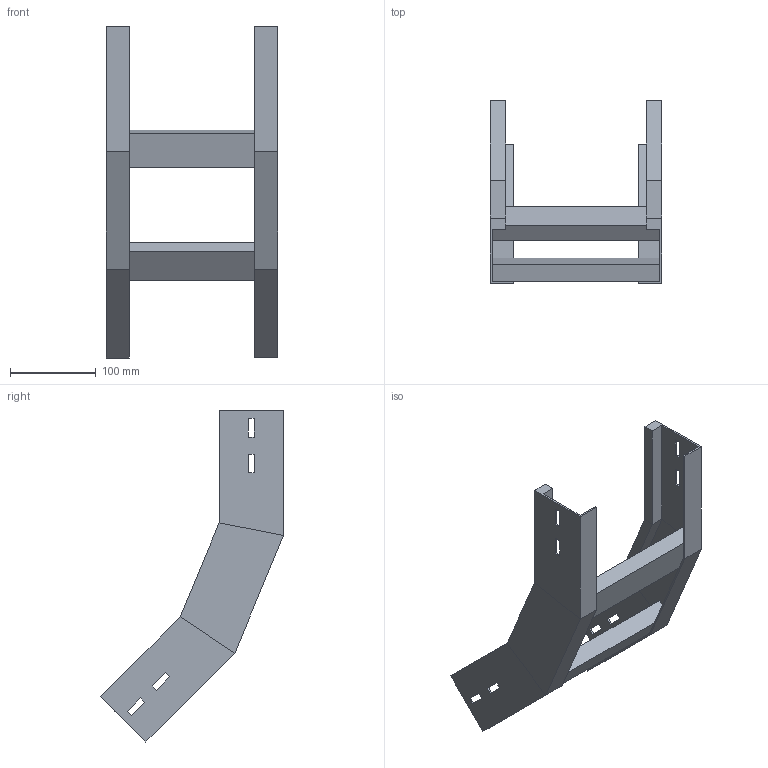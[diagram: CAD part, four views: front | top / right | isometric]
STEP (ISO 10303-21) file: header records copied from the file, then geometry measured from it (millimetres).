
FILE_DESCRIPTION (( 'STEP AP214' ), '1' );
FILE_NAME ('A2X31B3C200XX.step', '2025-03-20T10:08:51', ( '' ), ( '' ), 'SwSTEP 2.0', 'SolidWorks 2023', '' );
FILE_SCHEMA (( 'AUTOMOTIVE_DESIGN' ));
Length unit declared in the file: millimetre
Products named in the file (3): A2X31B3C200XX; LONGH.SALITA_45°_H75_R300; TRAVERSINO_200
Assembly tree (4 placements, depth 2):
  A2X31B3C200XX
    LONGH.SALITA_45°_H75_R300  x2
    TRAVERSINO_200  x2
Bounding box: 200 x 213.56 x 387.55 mm (x, y, z)
Volume: 631315.1 mm3; surface area: 246450.7 mm2
Topology: 4 solids, 4 shells, 96 faces, 232 edges, 144 vertices
Faces by surface type: plane 96
Entity records: 1472 total; most frequent: CARTESIAN_POINT 243, ORIENTED_EDGE 232, DIRECTION 226, VECTOR 116, LINE 116, EDGE_CURVE 116, VERTEX_POINT 72, EDGE_LOOP 56
